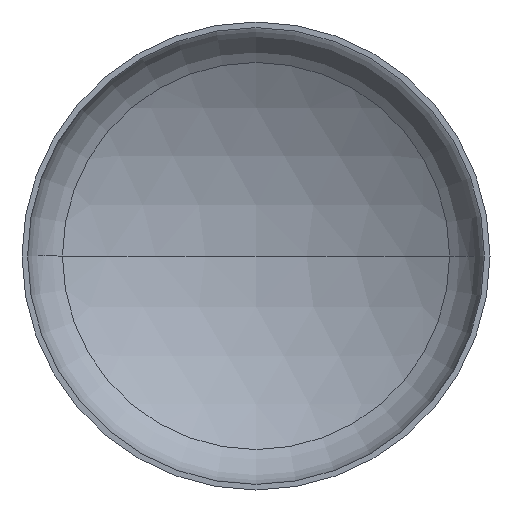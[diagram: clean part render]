
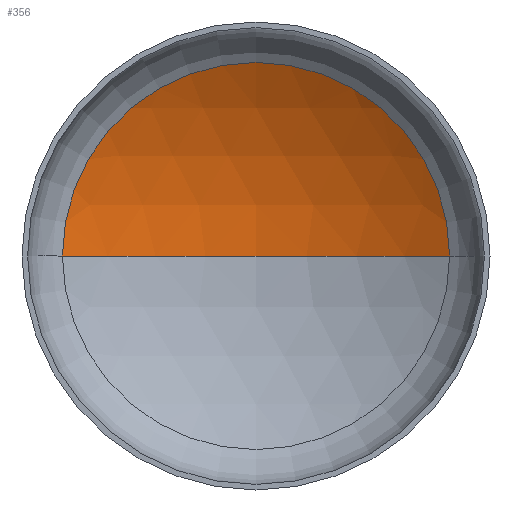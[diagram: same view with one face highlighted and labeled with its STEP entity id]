
A CAD part, front view. The second image highlights one B-rep face of the part: STEP entity #356.
In plain terms, the highlighted spherical face has radius 2880 mm.
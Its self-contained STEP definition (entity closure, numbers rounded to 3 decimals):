
#3 = AXIS2_PLACEMENT_3D ( 'NONE', #169, #379, #94 ) ;
#5 = ORIENTED_EDGE ( 'NONE', *, *, #167, .T. ) ;
#17 = EDGE_LOOP ( 'NONE', ( #21, #5, #118 ) ) ;
#21 = ORIENTED_EDGE ( 'NONE', *, *, #336, .F. ) ;
#31 = AXIS2_PLACEMENT_3D ( 'NONE', #268, #267, #238 ) ;
#33 = VERTEX_POINT ( 'NONE', #248 ) ;
#39 = CARTESIAN_POINT ( 'NONE',  ( 0., 1019.819, 0. ) ) ;
#40 = AXIS2_PLACEMENT_3D ( 'NONE', #197, #198, #208 ) ;
#94 = DIRECTION ( 'NONE',  ( 1., 0., 0. ) ) ;
#118 = ORIENTED_EDGE ( 'NONE', *, *, #154, .T. ) ;
#125 = VERTEX_POINT ( 'NONE', #277 ) ;
#154 = EDGE_CURVE ( 'NONE', #125, #33, #321, .T. ) ;
#167 = EDGE_CURVE ( 'NONE', #244, #125, #193, .T. ) ;
#169 = CARTESIAN_POINT ( 'NONE',  ( 0., -1860.181, 0. ) ) ;
#172 = CIRCLE ( 'NONE', #3, 2880. ) ;
#193 = CIRCLE ( 'NONE', #31, 2880. ) ;
#197 = CARTESIAN_POINT ( 'NONE',  ( 0., 605.075, 0. ) ) ;
#198 = DIRECTION ( 'NONE',  ( 0., -1., 0. ) ) ;
#208 = DIRECTION ( 'NONE',  ( 1., 0., 0. ) ) ;
#221 = DIRECTION ( 'NONE',  ( -1., 0., 0. ) ) ;
#238 = DIRECTION ( 'NONE',  ( -1., 0., 0. ) ) ;
#244 = VERTEX_POINT ( 'NONE', #39 ) ;
#248 = CARTESIAN_POINT ( 'NONE',  ( -1488.929, 605.075, 0. ) ) ;
#267 = DIRECTION ( 'NONE',  ( 0., 0., -1. ) ) ;
#268 = CARTESIAN_POINT ( 'NONE',  ( 0., -1860.181, 0. ) ) ;
#269 = SPHERICAL_SURFACE ( 'NONE', #359, 2880. ) ;
#277 = CARTESIAN_POINT ( 'NONE',  ( 1488.929, 605.075, 0. ) ) ;
#321 = CIRCLE ( 'NONE', #40, 1488.929 ) ;
#336 = EDGE_CURVE ( 'NONE', #244, #33, #172, .T. ) ;
#356 = ADVANCED_FACE ( 'NONE', ( #398 ), #269, .F. ) ;
#359 = AXIS2_PLACEMENT_3D ( 'NONE', #400, #406, #221 ) ;
#379 = DIRECTION ( 'NONE',  ( 0., 0., 1. ) ) ;
#398 = FACE_OUTER_BOUND ( 'NONE', #17, .T. ) ;
#400 = CARTESIAN_POINT ( 'NONE',  ( 0., -1860.181, 0. ) ) ;
#406 = DIRECTION ( 'NONE',  ( 0., 0., -1. ) ) ;
